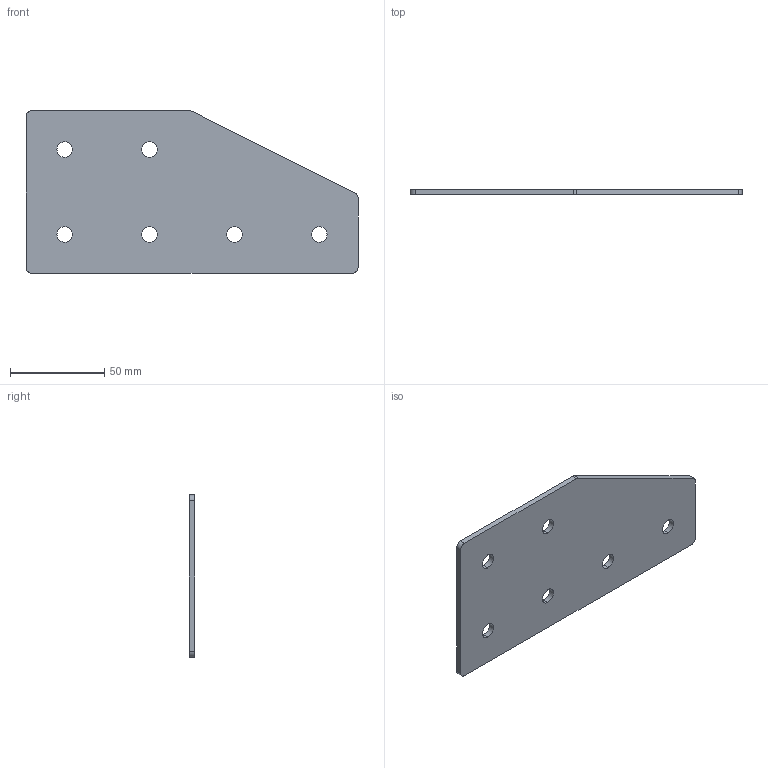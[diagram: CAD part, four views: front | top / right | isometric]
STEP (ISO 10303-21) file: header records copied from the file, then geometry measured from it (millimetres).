
FILE_DESCRIPTION (( 'STEP AP203' ), '1' );
FILE_NAME ('ﾃ-6-ﾓ-45.STEP', '2016-07-21T11:25:59', ( 'RosInstal-MKM' ), ( '' ), 'SwSTEP 2.0', 'SolidWorks 2014', '' );
FILE_SCHEMA (( 'CONFIG_CONTROL_DESIGN' ));
Length unit declared in the file: millimetre
Products named in the file (1): ﾃ-6-ﾓ-45
Bounding box: 176 x 3 x 86 mm (x, y, z)
Surface area: 27633.3 mm2 (no closed solid volume)
Topology: 0 solids, 1 shells, 24 faces, 66 edges, 44 vertices
Faces by surface type: cylinder 17, plane 7
Entity records: 885 total; most frequent: DIRECTION 150, CARTESIAN_POINT 135, ORIENTED_EDGE 132, EDGE_CURVE 66, AXIS2_PLACEMENT_3D 59, VERTEX_POINT 44, EDGE_LOOP 36, CIRCLE 34
